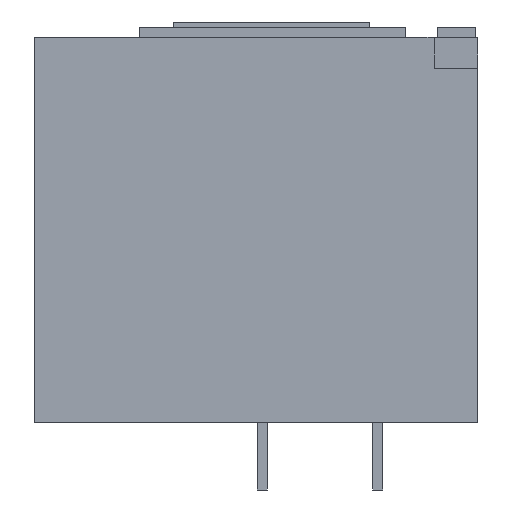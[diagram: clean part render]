
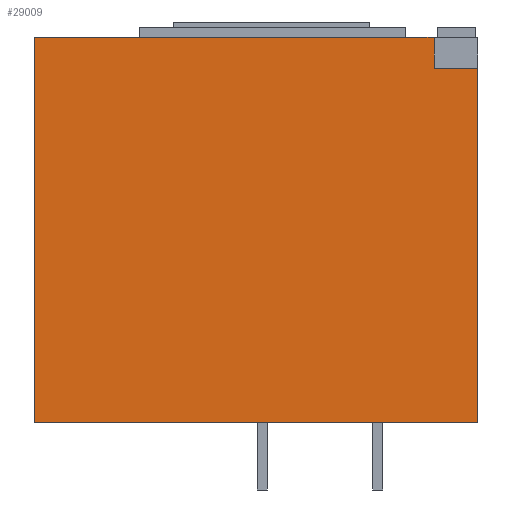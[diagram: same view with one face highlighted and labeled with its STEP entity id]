
A CAD part, left-side view. The second image highlights one B-rep face of the part: STEP entity #29009.
In plain terms, the highlighted planar face has unit normal (-1, 0, 0).
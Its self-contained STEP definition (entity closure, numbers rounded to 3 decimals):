
#3105 = VERTEX_POINT ( 'NONE', #28954 ) ;
#4671 = EDGE_CURVE ( 'NONE', #7799, #3105, #25008, .T. ) ;
#6010 = VERTEX_POINT ( 'NONE', #33972 ) ;
#6839 = ORIENTED_EDGE ( 'NONE', *, *, #9586, .T. ) ;
#6896 = CARTESIAN_POINT ( 'NONE',  ( -262.5, 0., -373.5 ) ) ;
#7158 = CARTESIAN_POINT ( 'NONE',  ( -262.5, 430., -373.5 ) ) ;
#7799 = VERTEX_POINT ( 'NONE', #29208 ) ;
#8487 = PLANE ( 'NONE',  #29148 ) ;
#9360 = EDGE_CURVE ( 'NONE', #7799, #6010, #32825, .T. ) ;
#9586 = EDGE_CURVE ( 'NONE', #39999, #11249, #19652, .T. ) ;
#11249 = VERTEX_POINT ( 'NONE', #36656 ) ;
#11372 = CARTESIAN_POINT ( 'NONE',  ( -262.5, 430.001, -30. ) ) ;
#13845 = CARTESIAN_POINT ( 'NONE',  ( -262.5, 42.5, -373.5 ) ) ;
#14362 = VECTOR ( 'NONE', #18900, 1000. ) ;
#14729 = DIRECTION ( 'NONE',  ( 0., -1., 0. ) ) ;
#15111 = ORIENTED_EDGE ( 'NONE', *, *, #31689, .F. ) ;
#15332 = ORIENTED_EDGE ( 'NONE', *, *, #9360, .F. ) ;
#15725 = ORIENTED_EDGE ( 'NONE', *, *, #22651, .F. ) ;
#16205 = VECTOR ( 'NONE', #14729, 1000. ) ;
#18020 = DIRECTION ( 'NONE',  ( 0., -1., 0. ) ) ;
#18496 = VECTOR ( 'NONE', #36819, 1000. ) ;
#18900 = DIRECTION ( 'NONE',  ( 0., 0., 1. ) ) ;
#19336 = EDGE_CURVE ( 'NONE', #11249, #6010, #38639, .T. ) ;
#19652 = LINE ( 'NONE', #19805, #37153 ) ;
#19805 = CARTESIAN_POINT ( 'NONE',  ( -262.5, 0., -373.5 ) ) ;
#22651 = EDGE_CURVE ( 'NONE', #33207, #3105, #25840, .T. ) ;
#23054 = VECTOR ( 'NONE', #28877, 1000. ) ;
#23690 = LINE ( 'NONE', #40679, #14362 ) ;
#24192 = CARTESIAN_POINT ( 'NONE',  ( -262.5, 0., -373.5 ) ) ;
#25008 = LINE ( 'NONE', #13845, #32310 ) ;
#25664 = CARTESIAN_POINT ( 'NONE',  ( -262.5, 430., 0. ) ) ;
#25840 = LINE ( 'NONE', #27588, #18496 ) ;
#26608 = FACE_OUTER_BOUND ( 'NONE', #38764, .T. ) ;
#27588 = CARTESIAN_POINT ( 'NONE',  ( -262.5, 0., 0. ) ) ;
#28877 = DIRECTION ( 'NONE',  ( 0., 0., 1. ) ) ;
#28954 = CARTESIAN_POINT ( 'NONE',  ( -262.5, 42.5, 0. ) ) ;
#29009 = ADVANCED_FACE ( 'NONE', ( #26608 ), #8487, .T. ) ;
#29148 = AXIS2_PLACEMENT_3D ( 'NONE', #24192, #36694, #18020 ) ;
#29208 = CARTESIAN_POINT ( 'NONE',  ( -262.5, 42.5, -30. ) ) ;
#29471 = DIRECTION ( 'NONE',  ( 0., 0., 1. ) ) ;
#29808 = ORIENTED_EDGE ( 'NONE', *, *, #4671, .T. ) ;
#31689 = EDGE_CURVE ( 'NONE', #39999, #33207, #23690, .T. ) ;
#32310 = VECTOR ( 'NONE', #29471, 1000. ) ;
#32825 = LINE ( 'NONE', #11372, #16205 ) ;
#33207 = VERTEX_POINT ( 'NONE', #25664 ) ;
#33972 = CARTESIAN_POINT ( 'NONE',  ( -262.5, 0., -30. ) ) ;
#35875 = ORIENTED_EDGE ( 'NONE', *, *, #19336, .T. ) ;
#36656 = CARTESIAN_POINT ( 'NONE',  ( -262.5, 0., -373.5 ) ) ;
#36694 = DIRECTION ( 'NONE',  ( -1., 0., 0. ) ) ;
#36819 = DIRECTION ( 'NONE',  ( 0., -1., 0. ) ) ;
#37153 = VECTOR ( 'NONE', #38432, 1000. ) ;
#38432 = DIRECTION ( 'NONE',  ( 0., -1., 0. ) ) ;
#38639 = LINE ( 'NONE', #6896, #23054 ) ;
#38764 = EDGE_LOOP ( 'NONE', ( #15725, #15111, #6839, #35875, #15332, #29808 ) ) ;
#39999 = VERTEX_POINT ( 'NONE', #7158 ) ;
#40679 = CARTESIAN_POINT ( 'NONE',  ( -262.5, 430., -373.5 ) ) ;
